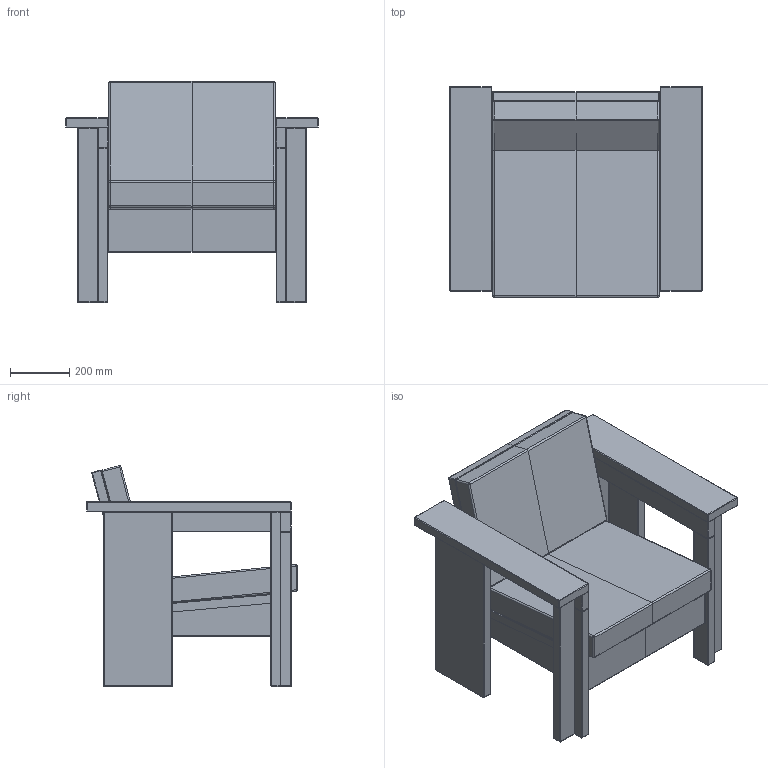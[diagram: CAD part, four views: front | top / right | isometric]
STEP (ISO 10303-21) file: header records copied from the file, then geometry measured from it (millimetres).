
FILE_DESCRIPTION(/* description */ (''),/* implementation_level */ '2;1');
FILE_NAME(/* name */ 'FRAMA_Symmetry-LougeChair-3D',/* time_stamp */ '2025-10-28T12:51:04+01:00',/* author */ (''),/* organization */ (''),/* preprocessor_version */ 'ST-DEVELOPER v16.5',/* originating_system */ 'Rhino 7.38',/* authorisation */ '');
FILE_SCHEMA (('CONFIG_CONTROL_DESIGN'));
Length unit declared in the file: millimetre
Products named in the file (1): Document
Bounding box: 852.09 x 711.07 x 745.57 mm (x, y, z)
Volume: 128753936.1 mm3; surface area: 6062771.5 mm2
Topology: 18 solids, 20 shells, 510 faces, 1008 edges, 536 vertices
Faces by surface type: cylinder 204, bspline 162, plane 144
Entity records: 16830 total; most frequent: CARTESIAN_POINT 9950, ORIENTED_EDGE 2000, EDGE_CURVE 1008, B_SPLINE_CURVE_WITH_KNOTS 627, VERTEX_POINT 536, ADVANCED_FACE 510, FACE_OUTER_BOUND 510, EDGE_LOOP 510
